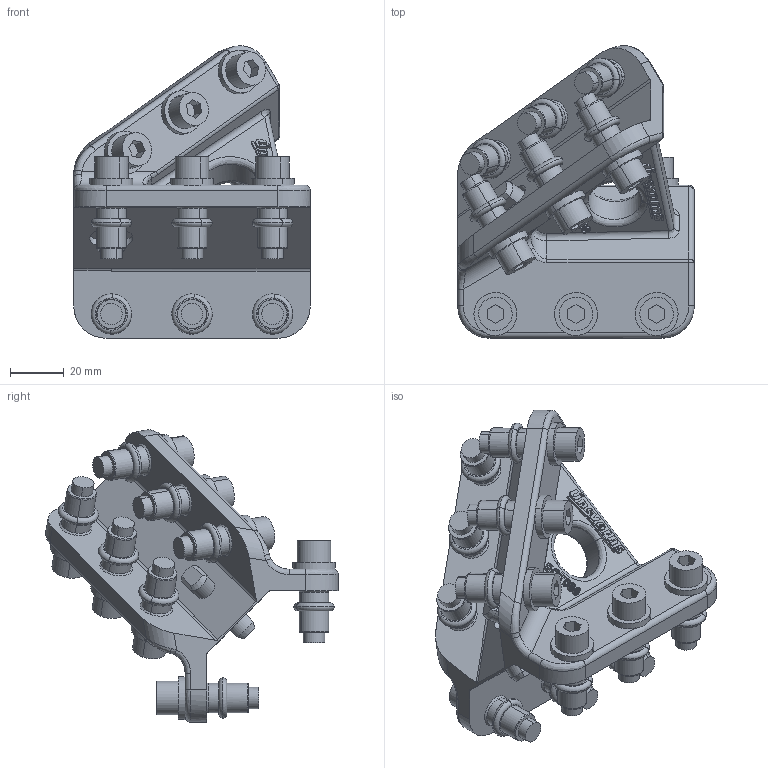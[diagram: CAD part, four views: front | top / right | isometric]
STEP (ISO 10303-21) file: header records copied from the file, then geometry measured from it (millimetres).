
FILE_DESCRIPTION(('CATIA V5 STEP Exchange'),'2;1');
FILE_NAME('C:\Users\User\Desktop\stp\EGT_086.stp','2017-07-21T01:31:03+00:00',('none'),('none'),'CATIA Version 5 Release 21 GA (IN-10)','CATIA V5 STEP AP203','none');
FILE_SCHEMA(('CONFIG_CONTROL_DESIGN'));
Products named in the file (1): EGT_086
Bounding box: 88 x 108.82 x 108.85 mm (x, y, z)
Volume: 163753.7 mm3; surface area: 64341.7 mm2
Topology: 15 solids, 15 shells, 1678 faces, 4432 edges, 2892 vertices
Faces by surface type: plane 1164, cylinder 258, extrusion 100, cone 76, torus 48, bspline 32
Entity records: 54155 total; most frequent: CARTESIAN_POINT 13832, ORIENTED_EDGE 8856, DIRECTION 7050, EDGE_CURVE 4428, VECTOR 3571, LINE 3471, VERTEX_POINT 2892, AXIS2_PLACEMENT_3D 2012
